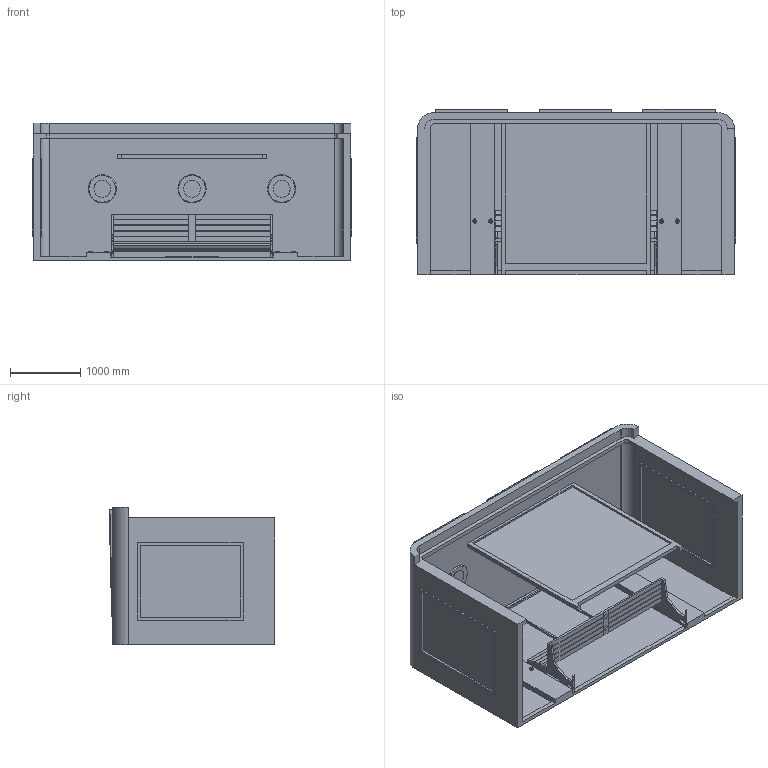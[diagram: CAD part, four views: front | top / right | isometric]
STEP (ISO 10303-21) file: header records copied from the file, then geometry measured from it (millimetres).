
FILE_DESCRIPTION (( 'STEP AP203' ), '1' );
FILE_NAME ('WYS1826A.STEP', '2025-10-06T08:07:37', ( '' ), ( '' ), 'SwSTEP 2.0', 'SolidWorks 2025', '' );
FILE_SCHEMA (( 'CONFIG_CONTROL_DESIGN' ));
Length unit declared in the file: millimetre
Products named in the file (15): PLATE BENCH WYS1826A1_Predeterminado; BASE STEEL COMPLET WYS1826A1_Predeterminado; SOLOAR PANEL FULL WYS1826A1_Predeterminado; USB WYS1826A1_Predeterminado; GLASS FULL WYS1826A1_Predeterminado; LEG BENCH WYS1826A11_Predeterminado; WYS1826A; BIG GLASS FRONT WYS1826A1_Predeterminado; USB FULL WYS1826A1_Predeterminado; LED LIGHT LIGHT FULL WYS1826A1_Predeterminado; SPOT LIGHT FULL WYS1826A1_Predeterminado; WOOD BENCH FULL WYS1826A1_Predeterminado; WIRELESS WYS1826A1_Predeterminado; CELL SOLAR FULL WYS1826A1_Predeterminado; LED LIGHT BOX FULL WYS1826A1_Predeterminado
Assembly tree (16 placements, depth 2):
  WYS1826A
    CELL SOLAR FULL WYS1826A1_Predeterminado
    GLASS FULL WYS1826A1_Predeterminado
    LED LIGHT BOX FULL WYS1826A1_Predeterminado
    LED LIGHT LIGHT FULL WYS1826A1_Predeterminado
    SOLOAR PANEL FULL WYS1826A1_Predeterminado
    SPOT LIGHT FULL WYS1826A1_Predeterminado
    USB FULL WYS1826A1_Predeterminado
    PLATE BENCH WYS1826A1_Predeterminado
    WIRELESS WYS1826A1_Predeterminado
    BASE STEEL COMPLET WYS1826A1_Predeterminado
    LEG BENCH WYS1826A11_Predeterminado  x2
    WOOD BENCH FULL WYS1826A1_Predeterminado
    USB WYS1826A1_Predeterminado  x2
    BIG GLASS FRONT WYS1826A1_Predeterminado
Bounding box: 4540 x 2349.98 x 1950 mm (x, y, z)
Volume: 1980835545.5 mm3; surface area: 103749292.3 mm2
Topology: 373 solids, 373 shells, 6115 faces, 15623 edges, 10414 vertices
Faces by surface type: plane 5697, cylinder 280, bspline 112, torus 22, cone 4
Entity records: 182518 total; most frequent: CARTESIAN_POINT 37703, ORIENTED_EDGE 29922, DIRECTION 26942, EDGE_CURVE 14961, VECTOR 14222, LINE 14222, VERTEX_POINT 9972, EDGE_LOOP 6685
